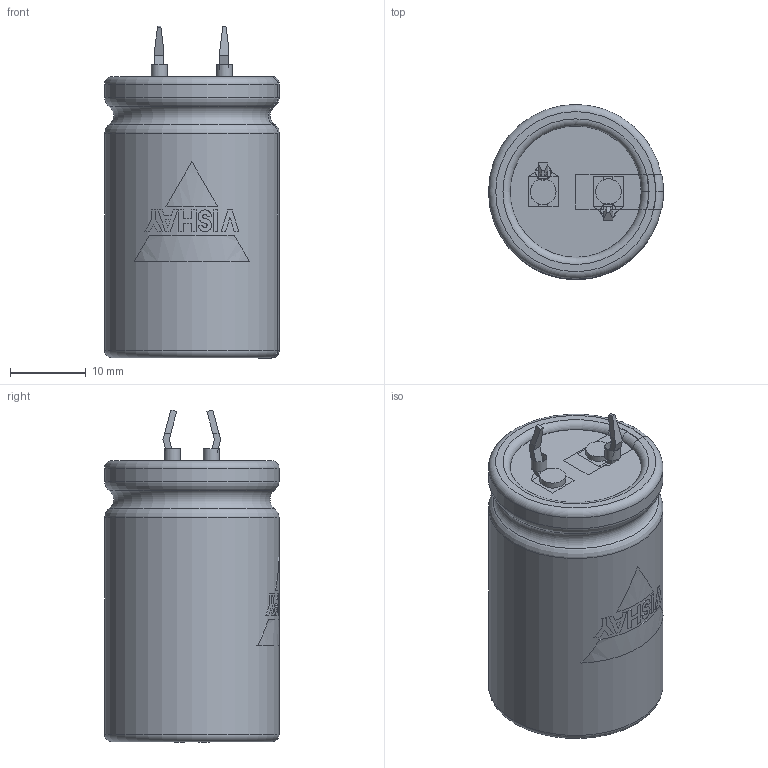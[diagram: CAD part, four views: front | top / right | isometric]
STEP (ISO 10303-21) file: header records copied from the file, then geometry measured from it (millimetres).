
FILE_DESCRIPTION(('FreeCAD Model'),'2;1');
FILE_NAME( 'C:/Users/Gebruiker/Documents/FreeCAD/SnapIn_22x35_2pin_5.8.step', '2020-11-12T19:53:49',('Author'),(''), 'Open CASCADE STEP processor 6.8','FreeCAD','Unknown');
FILE_SCHEMA(('AUTOMOTIVE_DESIGN_CC2 { 1 2 10303 214 -1 1 5 4 }'));
Length unit declared in the file: millimetre
Products named in the file (9): ASSEMBLY; TerminalMin; TerminalPlus; PCBHoles; Disc; BottomInsulation; Can3D; InkMinusBar; InkLogo
Assembly tree (8 placements, depth 2):
  ASSEMBLY
    TerminalMin
    TerminalPlus
    PCBHoles
    Disc
    BottomInsulation
    Can3D
    InkMinusBar
    InkLogo
Bounding box: 23.05 x 23.05 x 43.75 mm (x, y, z)
Volume: 17222.3 mm3; surface area: 8222.8 mm2
Topology: 16 solids, 16 shells, 197 faces, 488 edges, 320 vertices
Faces by surface type: plane 150, cylinder 29, torus 18
Full cylindrical faces by diameter (mm): 2 x2, 2.1 x2, 3.4 x2, 17.3 x1, 18.4 x2, 23 x2
Entity records: 20393 total; most frequent: CARTESIAN_POINT 9478, DIRECTION 1702, ORIENTED_EDGE 976, PCURVE 976, DEFINITIONAL_REPRESENTATION 976, LINE 949, VECTOR 949, EDGE_CURVE 488
